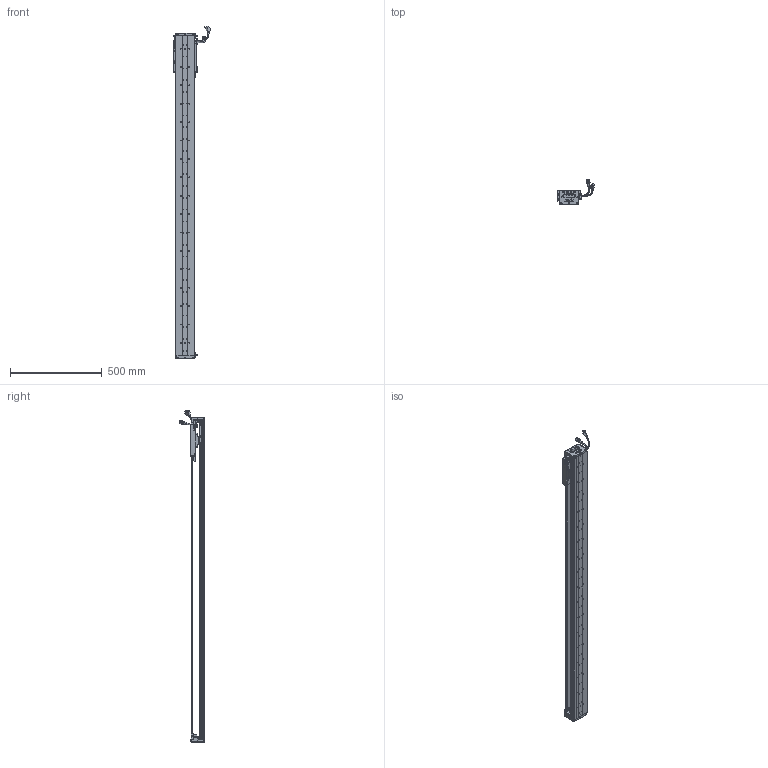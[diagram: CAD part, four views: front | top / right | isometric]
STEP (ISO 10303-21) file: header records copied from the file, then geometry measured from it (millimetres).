
FILE_DESCRIPTION (( 'STEP AP203' ), '1' );
FILE_NAME ('Z2-RY100D-1-L500-B-K.SLDASM_1500.step', '2021-05-17T02:36:29', ( '盈信电脑' ), ( '东莞市道滘镇水果街19号' ), 'SwSTEP 2.0', 'SolidWorks 2016', '' );
FILE_SCHEMA (( 'CONFIG_CONTROL_DESIGN' ));
Length unit declared in the file: millimetre
Products named in the file (36): 覜茼ん672; 榋妏寠巭燃_暯_M2_2; SCREW-M1.6-1; SCREW-M1.7; PBU_SHEET; Z-100詩湍傷裔啣; SHIELDPLATE; Z2-RY100-L500詩湍90mm遵_1500; Z-RY100D覜茼んえ; HARNESS-Part-1; PSLH080_PSLF2; HARNESS-Part-2; 140雄赽晤鎢ん堤盄; HARNESS; SCREW-M1.6-2; SCALE-Part-1; 140蚥薯蝶輸; COVER-Part-1; SCREW-M1.6; 100-Z-臏賑輸盄裔(21遴); Z2-RY100D-1-L500-B-K.SLDASM_1500; SCALE-Part-2; 080黍杅芛假蚾釱21遴; Z2-RY100D-500-倰第菁釱_1500; Z-RY100D詩湍奻揤裔; SCREW-M1.7-1; SCREW-M1.6-3; Z-RY100D詩湍狟揤裔; HOLDER0; COVER; Z2-RY100铝滑块（21款）; LABEL; LABEL-Part-1; SEAL; SCALE; SEAL-Part-1
Assembly tree (43 placements, depth 4):
  Z2-RY100D-1-L500-B-K.SLDASM_1500
    Z2-RY100D-500-倰第菁釱_1500
    Z2-RY100铝滑块（21款）
    PSLH080_PSLF2
      SCALE
        SCALE-Part-1
        SCALE-Part-2
      HARNESS
        HARNESS-Part-1
        HARNESS-Part-2
      LABEL
        LABEL-Part-1
      COVER
        COVER-Part-1
      SEAL
        SEAL-Part-1
      榋妏寠巭燃_暯_M2_2
      SHIELDPLATE
      SCREW-M1.7
      SCREW-M1.7-1
      PBU_SHEET
      SCREW-M1.6
      SCREW-M1.6-1
      SCREW-M1.6-2
      SCREW-M1.6-3
      HOLDER0
    080黍杅芛假蚾釱21遴
    Z-100詩湍傷裔啣  x2
    140蚥薯蝶輸  x2
    覜茼ん672  x3
    Z-RY100D覜茼んえ  x3
    100-Z-臏賑輸盄裔(21遴)
    140雄赽晤鎢ん堤盄
    Z2-RY100-L500詩湍90mm遵_1500
    Z-RY100D詩湍狟揤裔  x2
    Z-RY100D詩湍奻揤裔  x2
Bounding box: 205.83 x 136.11 x 1805.43 mm (x, y, z)
Volume: 3410083.4 mm3; surface area: 1340771.9 mm2
Topology: 38 solids, 38 shells, 2744 faces, 7341 edges, 4668 vertices
Faces by surface type: cylinder 1258, plane 1146, cone 218, torus 69, bspline 53
Entity records: 76841 total; most frequent: CARTESIAN_POINT 16176, DIRECTION 12253, ORIENTED_EDGE 11578, EDGE_CURVE 5789, AXIS2_PLACEMENT_3D 4549, VERTEX_POINT 3736, LINE 3155, VECTOR 3155
